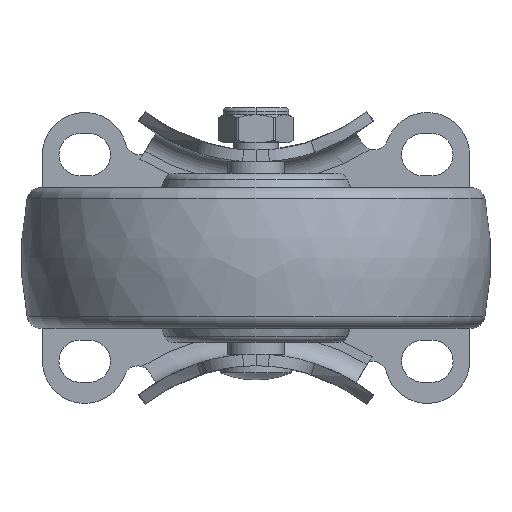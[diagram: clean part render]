
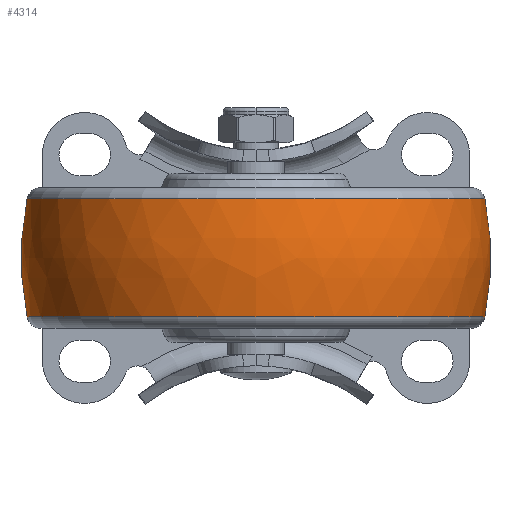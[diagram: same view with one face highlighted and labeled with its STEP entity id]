
A CAD part, front view. The second image highlights one B-rep face of the part: STEP entity #4314.
In plain terms, the highlighted free-form (B-spline) face has degree [3, 3] with [7, 4] control points.
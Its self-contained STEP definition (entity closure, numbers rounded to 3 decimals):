
#3784=CARTESIAN_POINT('',(0.,-15.,0.));
#3785=DIRECTION('',(0.,0.,1.));
#3786=DIRECTION('',(0.194,0.981,0.));
#3787=AXIS2_PLACEMENT_3D('',#3784,#3785,#3786);
#3789=CARTESIAN_POINT('',(0.,15.,0.));
#3790=DIRECTION('',(0.,0.,-1.));
#3791=DIRECTION('',(0.194,-0.981,0.));
#3792=AXIS2_PLACEMENT_3D('',#3789,#3790,#3791);
#3794=CARTESIAN_POINT('',(12.581,0.,0.));
#3795=DIRECTION('',(-1.,0.,0.));
#3796=DIRECTION('',(0.,1.,0.));
#3797=AXIS2_PLACEMENT_3D('',#3794,#3795,#3796);
#3809=CARTESIAN_POINT('',(-12.581,0.,0.));
#3810=DIRECTION('',(-1.,0.,0.));
#3811=DIRECTION('',(0.,1.,0.));
#3812=AXIS2_PLACEMENT_3D('',#3809,#3810,#3811);
#4149=CARTESIAN_POINT('',(12.581,48.771,0.));
#4150=CARTESIAN_POINT('',(-12.581,48.771,0.));
#4151=VERTEX_POINT('',#4149);
#4152=VERTEX_POINT('',#4150);
#4193=CARTESIAN_POINT('',(12.581,-48.771,0.));
#4194=CARTESIAN_POINT('',(-12.581,-48.771,0.));
#4195=VERTEX_POINT('',#4193);
#4196=VERTEX_POINT('',#4194);
#4277=CARTESIAN_POINT('',(-13.077,-48.575,
3.056));
#4278=CARTESIAN_POINT('',(-4.419,-50.35,
3.168));
#4279=CARTESIAN_POINT('',(4.419,-50.35,3.168));
#4280=CARTESIAN_POINT('',(13.077,-48.575,3.056));
#4281=CARTESIAN_POINT('',(-13.077,-50.456,
-26.837));
#4282=CARTESIAN_POINT('',(-4.419,-52.299,
-27.817));
#4283=CARTESIAN_POINT('',(4.419,-52.299,
-27.817));
#4284=CARTESIAN_POINT('',(13.077,-50.456,
-26.837));
#4285=CARTESIAN_POINT('',(-13.077,-29.952,
-48.671));
#4286=CARTESIAN_POINT('',(-4.419,-31.046,
-50.449));
#4287=CARTESIAN_POINT('',(4.419,-31.046,
-50.449));
#4288=CARTESIAN_POINT('',(13.077,-29.952,
-48.671));
#4289=CARTESIAN_POINT('',(-13.077,0.,-48.671));
#4290=CARTESIAN_POINT('',(-4.419,0.,-50.449));
#4291=CARTESIAN_POINT('',(4.419,0.,-50.449));
#4292=CARTESIAN_POINT('',(13.077,0.,
-48.671));
#4293=CARTESIAN_POINT('',(-13.077,29.952,
-48.671));
#4294=CARTESIAN_POINT('',(-4.419,31.046,
-50.449));
#4295=CARTESIAN_POINT('',(4.419,31.046,-50.449));
#4296=CARTESIAN_POINT('',(13.077,29.952,-48.671));
#4297=CARTESIAN_POINT('',(-13.077,50.456,
-26.837));
#4298=CARTESIAN_POINT('',(-4.419,52.299,
-27.817));
#4299=CARTESIAN_POINT('',(4.419,52.299,-27.817));
#4300=CARTESIAN_POINT('',(13.077,50.456,-26.837));
#4301=CARTESIAN_POINT('',(-13.077,48.575,3.056));
#4302=CARTESIAN_POINT('',(-4.419,50.35,3.168));
#4303=CARTESIAN_POINT('',(4.419,50.35,3.168));
#4304=CARTESIAN_POINT('',(13.077,48.575,3.056));
#4305=(BOUNDED_SURFACE()B_SPLINE_SURFACE(3,3,((#4277,#4278,#4279,#4280),(#4281,
#4282,#4283,#4284),(#4285,#4286,#4287,#4288),(#4289,#4290,#4291,#4292),(#4293,
#4294,#4295,#4296),(#4297,#4298,#4299,#4300),(#4301,#4302,#4303,#4304)),
.UNSPECIFIED.,.F.,.F.,.F.)B_SPLINE_SURFACE_WITH_KNOTS((4,3,4),(4,4),(0.,1.,
2.),(0.,1.),.UNSPECIFIED.)GEOMETRIC_REPRESENTATION_ITEM()RATIONAL_B_SPLINE_SURFACE(((1.2,1.183,1.183,1.2),(
0.947,0.934,0.934,0.947),(
0.947,0.934,0.934,0.947),(
1.2,1.183,1.183,1.2),(
0.947,0.934,0.934,0.947),(
0.947,0.934,0.934,0.947),(
1.2,1.183,1.183,1.2)))REPRESENTATION_ITEM('')SURFACE());
#4306=ORIENTED_EDGE('',*,*,#4266,.T.);
#4308=ORIENTED_EDGE('',*,*,#4307,.T.);
#4309=ORIENTED_EDGE('',*,*,#4270,.F.);
#4311=ORIENTED_EDGE('',*,*,#4310,.F.);
#4312=EDGE_LOOP('',(#4306,#4308,#4309,#4311));
#4313=FACE_OUTER_BOUND('',#4312,.F.);
#3788=CIRCLE('',#3787,65.);
#3793=CIRCLE('',#3792,65.);
#3798=CIRCLE('',#3797,48.771);
#3813=CIRCLE('',#3812,48.771);
#4266=EDGE_CURVE('',#4151,#4152,#3788,.T.);
#4270=EDGE_CURVE('',#4195,#4196,#3793,.T.);
#4307=EDGE_CURVE('',#4152,#4196,#3813,.T.);
#4310=EDGE_CURVE('',#4151,#4195,#3798,.T.);
#4314=ADVANCED_FACE('',(#4313),#4305,.T.);
